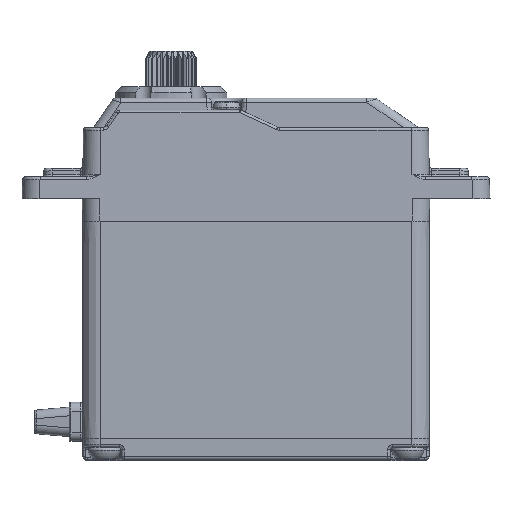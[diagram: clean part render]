
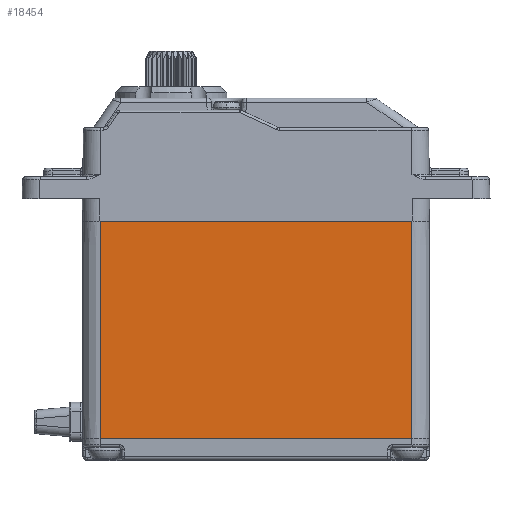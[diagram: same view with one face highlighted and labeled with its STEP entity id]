
A CAD part, top view. The second image highlights one B-rep face of the part: STEP entity #18454.
In plain terms, the highlighted planar face has unit normal (0, 0, 1).
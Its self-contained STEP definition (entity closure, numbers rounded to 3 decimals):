
#634=DIRECTION('',(1.,0.,0.));
#635=VECTOR('',#634,35.998);
#636=CARTESIAN_POINT('',(-17.999,0.,10.));
#637=LINE('',#636,#635);
#748=DIRECTION('',(1.,0.,0.));
#749=VECTOR('',#748,35.999);
#750=CARTESIAN_POINT('',(-18.,-25.1,10.));
#751=LINE('',#750,#749);
#752=DIRECTION('',(0.,-1.,0.));
#753=VECTOR('',#752,25.1);
#754=CARTESIAN_POINT('',(-17.999,0.,10.));
#755=LINE('',#754,#753);
#789=DIRECTION('',(0.,-1.,0.));
#790=VECTOR('',#789,25.1);
#791=CARTESIAN_POINT('',(17.999,0.,10.));
#792=LINE('',#791,#790);
#2824=CARTESIAN_POINT('',(-17.999,0.,10.));
#15340=VERTEX_POINT('',#2824);
#15341=CARTESIAN_POINT('',(17.999,0.,10.));
#15342=VERTEX_POINT('',#15341);
#16960=CARTESIAN_POINT('',(-18.,-25.1,10.));
#16962=VERTEX_POINT('',#16960);
#16963=CARTESIAN_POINT('',(18.,-25.1,10.));
#16964=VERTEX_POINT('',#16963);
#18440=CARTESIAN_POINT('',(-17.999,0.,10.));
#18441=DIRECTION('',(0.,0.,1.));
#18442=DIRECTION('',(1.,0.,0.));
#18443=AXIS2_PLACEMENT_3D('',#18440,#18441,#18442);
#18444=PLANE('',#18443);
#18446=ORIENTED_EDGE('',*,*,#18445,.F.);
#18448=ORIENTED_EDGE('',*,*,#18447,.F.);
#18449=ORIENTED_EDGE('',*,*,#18399,.T.);
#18451=ORIENTED_EDGE('',*,*,#18450,.T.);
#18452=EDGE_LOOP('',(#18446,#18448,#18449,#18451));
#18453=FACE_OUTER_BOUND('',#18452,.F.);
#18399=EDGE_CURVE('',#15340,#15342,#637,.T.);
#18445=EDGE_CURVE('',#16962,#16964,#751,.T.);
#18447=EDGE_CURVE('',#15340,#16962,#755,.T.);
#18450=EDGE_CURVE('',#15342,#16964,#792,.T.);
#18454=ADVANCED_FACE('',(#18453),#18444,.T.);
